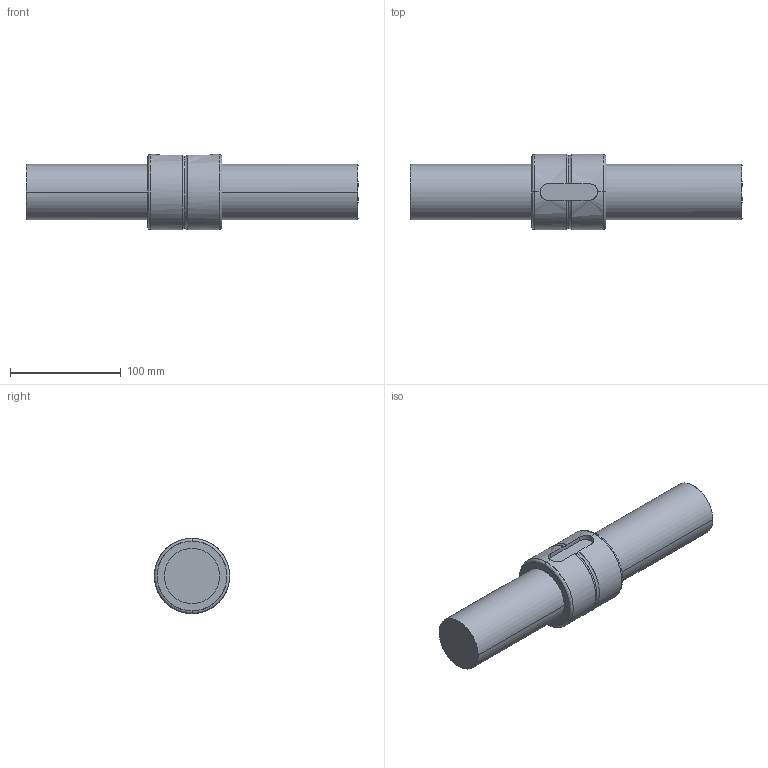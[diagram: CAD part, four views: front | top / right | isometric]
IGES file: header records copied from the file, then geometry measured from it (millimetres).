
Global section: file name: No Iges File Name specified; native system: AutoDesk Inventor R10; preprocessor: AutoDesk Inventor Iges Exporter R10; author: No Author specified; organization: No Organization specified; date: 20101224.160000; units: millimetre
Bounding box: 300 x 68 x 68 mm (x, y, z)
Surface area: 79430.9 mm2 (no closed solid volume)
Topology: 0 solids, 0 shells, 27 faces, 310 edges, 310 vertices
Faces by surface type: bspline 27
